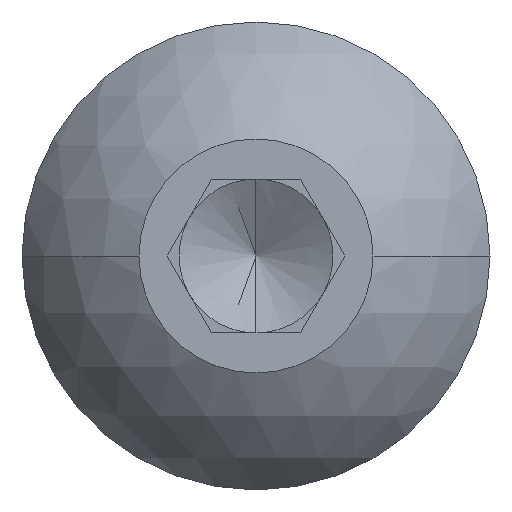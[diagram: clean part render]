
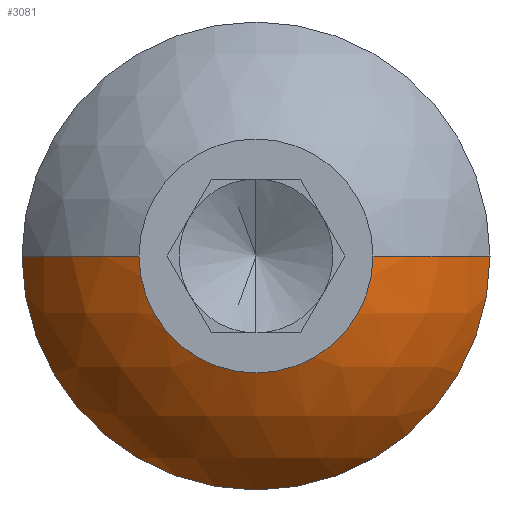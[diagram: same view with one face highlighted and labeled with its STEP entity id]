
A CAD part, left-side view. The second image highlights one B-rep face of the part: STEP entity #3081.
In plain terms, the highlighted spherical face has radius 4.325 mm.
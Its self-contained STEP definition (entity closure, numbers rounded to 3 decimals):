
#22 = VERTEX_POINT ( 'NONE', #2409 ) ;
#97 = DIRECTION ( 'NONE',  ( 0., 0., -1. ) ) ;
#673 = CIRCLE ( 'NONE', #5668, 3.8 ) ;
#976 = FACE_OUTER_BOUND ( 'NONE', #2483, .T. ) ;
#989 = AXIS2_PLACEMENT_3D ( 'NONE', #8137, #5271, #10984 ) ;
#1043 = DIRECTION ( 'NONE',  ( 0., 1., 0. ) ) ;
#1319 = CIRCLE ( 'NONE', #3309, 4.325 ) ;
#1436 = DIRECTION ( 'NONE',  ( 0., 1., 0. ) ) ;
#1791 = DIRECTION ( 'NONE',  ( 0., 0., -1. ) ) ;
#1868 = CARTESIAN_POINT ( 'NONE',  ( 0., 0., 0. ) ) ;
#1927 = CARTESIAN_POINT ( 'NONE',  ( 1.82, 3.8, 0. ) ) ;
#2091 = CIRCLE ( 'NONE', #2492, 4.325 ) ;
#2238 = ORIENTED_EDGE ( 'NONE', *, *, #11040, .T. ) ;
#2409 = CARTESIAN_POINT ( 'NONE',  ( 1.82, -3.8, 0. ) ) ;
#2483 = EDGE_LOOP ( 'NONE', ( #4335, #2238, #4012, #5083, #6187 ) ) ;
#2492 = AXIS2_PLACEMENT_3D ( 'NONE', #7498, #3690, #5509 ) ;
#2894 = EDGE_CURVE ( 'NONE', #22, #5837, #1319, .T. ) ;
#3081 = ADVANCED_FACE ( 'NONE', ( #976 ), #10636, .T. ) ;
#3193 = CARTESIAN_POINT ( 'NONE',  ( 1.82, 0., -3.8 ) ) ;
#3288 = DIRECTION ( 'NONE',  ( -1., 0., 0. ) ) ;
#3309 = AXIS2_PLACEMENT_3D ( 'NONE', #4667, #1791, #1436 ) ;
#3690 = DIRECTION ( 'NONE',  ( 0., 0., 1. ) ) ;
#3901 = VERTEX_POINT ( 'NONE', #3193 ) ;
#4012 = ORIENTED_EDGE ( 'NONE', *, *, #2894, .T. ) ;
#4138 = EDGE_CURVE ( 'NONE', #8081, #3901, #9745, .T. ) ;
#4271 = VERTEX_POINT ( 'NONE', #9572 ) ;
#4335 = ORIENTED_EDGE ( 'NONE', *, *, #4138, .T. ) ;
#4667 = CARTESIAN_POINT ( 'NONE',  ( 3.885, 0., 0. ) ) ;
#4719 = AXIS2_PLACEMENT_3D ( 'NONE', #9575, #97, #1043 ) ;
#5083 = ORIENTED_EDGE ( 'NONE', *, *, #5148, .F. ) ;
#5108 = EDGE_CURVE ( 'NONE', #8081, #4271, #2091, .T. ) ;
#5148 = EDGE_CURVE ( 'NONE', #4271, #5837, #9070, .T. ) ;
#5271 = DIRECTION ( 'NONE',  ( -1., 0., 0. ) ) ;
#5509 = DIRECTION ( 'NONE',  ( 1., 0., 0. ) ) ;
#5564 = DIRECTION ( 'NONE',  ( -1., 0., 0. ) ) ;
#5668 = AXIS2_PLACEMENT_3D ( 'NONE', #10760, #3288, #8961 ) ;
#5837 = VERTEX_POINT ( 'NONE', #10276 ) ;
#6187 = ORIENTED_EDGE ( 'NONE', *, *, #5108, .F. ) ;
#7498 = CARTESIAN_POINT ( 'NONE',  ( 3.885, 0., 0. ) ) ;
#8081 = VERTEX_POINT ( 'NONE', #1927 ) ;
#8137 = CARTESIAN_POINT ( 'NONE',  ( 1.82, 0., 0. ) ) ;
#8961 = DIRECTION ( 'NONE',  ( 0., 0., 1. ) ) ;
#9070 = CIRCLE ( 'NONE', #10660, 1.9 ) ;
#9413 = DIRECTION ( 'NONE',  ( 0., 0., 1. ) ) ;
#9572 = CARTESIAN_POINT ( 'NONE',  ( 0., 1.9, 0. ) ) ;
#9575 = CARTESIAN_POINT ( 'NONE',  ( 3.885, 0., 0. ) ) ;
#9745 = CIRCLE ( 'NONE', #989, 3.8 ) ;
#10276 = CARTESIAN_POINT ( 'NONE',  ( 0., -1.9, 0. ) ) ;
#10636 = SPHERICAL_SURFACE ( 'NONE', #4719, 4.325 ) ;
#10660 = AXIS2_PLACEMENT_3D ( 'NONE', #1868, #5564, #9413 ) ;
#10760 = CARTESIAN_POINT ( 'NONE',  ( 1.82, 0., 0. ) ) ;
#10984 = DIRECTION ( 'NONE',  ( 0., 0., 1. ) ) ;
#11040 = EDGE_CURVE ( 'NONE', #3901, #22, #673, .T. ) ;
